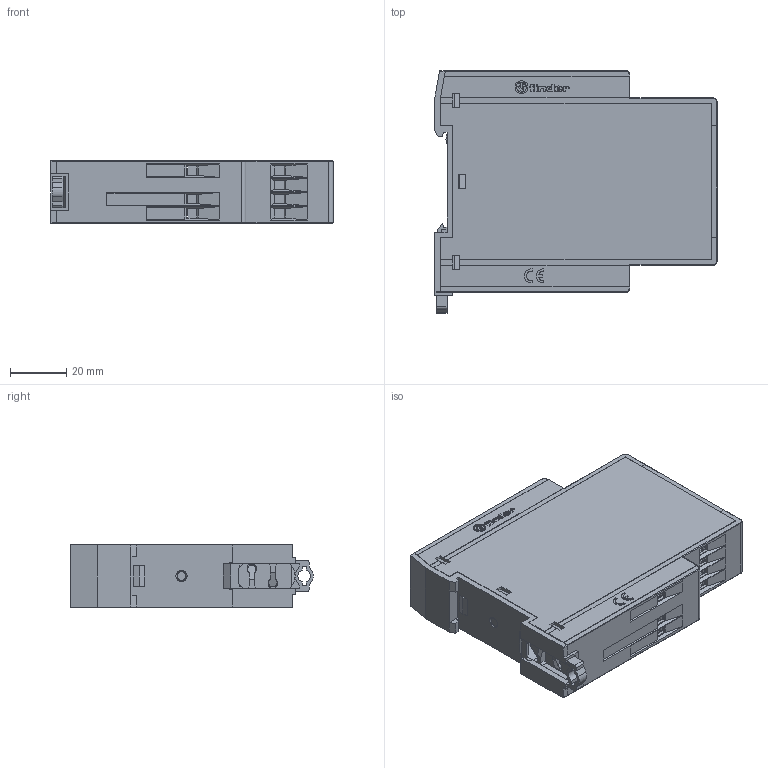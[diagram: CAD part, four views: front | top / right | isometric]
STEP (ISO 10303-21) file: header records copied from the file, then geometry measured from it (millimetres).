
FILE_DESCRIPTION(/* description */ ('Unknown'),/* implementation_level */ '2;1');
FILE_NAME(/* name */ '7S63 unico',/* time_stamp */ '2018-02-12T15:29:50+01:00',/* author */ ('Unknown'),/* organization */ ('Unknown'),/* preprocessor_version */ 'ST-DEVELOPER v16.7',/* originating_system */ 'DEX',/* authorisation */ $);
FILE_SCHEMA (('AUTOMOTIVE_DESIGN { 1 0 10303 214 3 1 1 }','AUTOMOTIVE_DESIGN {1 0 10303 214 3 1 1}'));
Products named in the file (1): 7S63 unico
Bounding box: 100.3 x 86.25 x 22.5 mm (x, y, z)
Surface area: 57075.5 mm2 (no closed solid volume)
Topology: 0 solids, 186 shells, 2399 faces, 9010 edges, 6742 vertices
Faces by surface type: plane 2116, cylinder 188, cone 49, torus 32, bspline 14
Full cylindrical faces by diameter (mm): 3 x2, 4.566 x2, 4.6 x12, 4.7 x14
Entity records: 95294 total; most frequent: CARTESIAN_POINT 19159, DIRECTION 14437, ORIENTED_EDGE 14220, EDGE_CURVE 8957, LINE 7873, VECTOR 7873, VERTEX_POINT 6720, AXIS2_PLACEMENT_3D 3282
